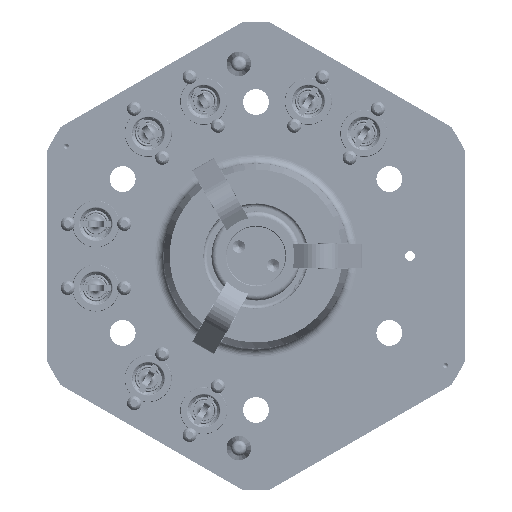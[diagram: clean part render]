
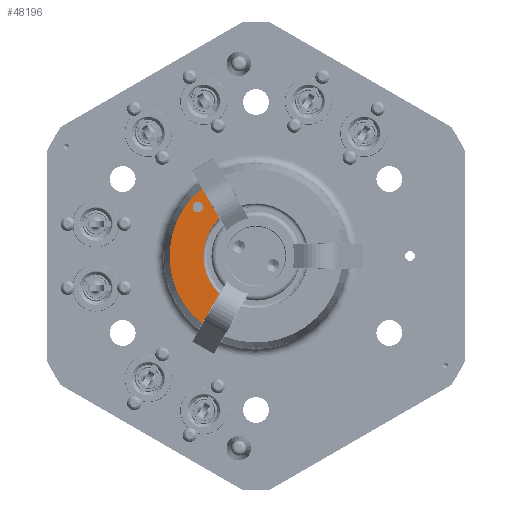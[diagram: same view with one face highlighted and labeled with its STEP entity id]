
A CAD part, front view. The second image highlights one B-rep face of the part: STEP entity #48196.
In plain terms, the highlighted planar face has unit normal (0, -1, 0).
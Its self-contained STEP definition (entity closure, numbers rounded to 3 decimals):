
#2394 = AXIS2_PLACEMENT_3D ( 'NONE', #59022, #14648, #31518 ) ;
#2528 = EDGE_CURVE ( 'NONE', #4203, #50151, #19830, .T. ) ;
#3864 = CARTESIAN_POINT ( 'NONE',  ( -23.624, -44.5, 19.918 ) ) ;
#4203 = VERTEX_POINT ( 'NONE', #71542 ) ;
#5171 = CARTESIAN_POINT ( 'NONE',  ( 0., -44.5, 0. ) ) ;
#5877 = ORIENTED_EDGE ( 'NONE', *, *, #54965, .F. ) ;
#7744 = VECTOR ( 'NONE', #53474, 1000. ) ;
#8090 = EDGE_CURVE ( 'NONE', #55739, #21923, #60337, .T. ) ;
#8790 = EDGE_LOOP ( 'NONE', ( #65013, #16547 ) ) ;
#9604 = VERTEX_POINT ( 'NONE', #58245 ) ;
#11756 = ORIENTED_EDGE ( 'NONE', *, *, #2528, .F. ) ;
#13949 = AXIS2_PLACEMENT_3D ( 'NONE', #32656, #55379, #26434 ) ;
#14144 = CIRCLE ( 'NONE', #55131, 21.365 ) ;
#14648 = DIRECTION ( 'NONE',  ( 0., -1., 0. ) ) ;
#16547 = ORIENTED_EDGE ( 'NONE', *, *, #8090, .F. ) ;
#19482 = CARTESIAN_POINT ( 'NONE',  ( -23.624, -44.5, 22.018 ) ) ;
#19830 = LINE ( 'NONE', #34273, #67929 ) ;
#20968 = VERTEX_POINT ( 'NONE', #49570 ) ;
#21056 = DIRECTION ( 'NONE',  ( 0., 0., -1. ) ) ;
#21269 = DIRECTION ( 'NONE',  ( 0., -1., 0. ) ) ;
#21923 = VERTEX_POINT ( 'NONE', #61609 ) ;
#22127 = EDGE_LOOP ( 'NONE', ( #69585, #31348, #11756, #5877 ) ) ;
#24616 = CIRCLE ( 'NONE', #2394, 2.1 ) ;
#25228 = CARTESIAN_POINT ( 'NONE',  ( -14.902, -44.5, 15.31 ) ) ;
#26434 = DIRECTION ( 'NONE',  ( 0., 0., -1. ) ) ;
#26650 = EDGE_CURVE ( 'NONE', #9604, #20968, #38055, .T. ) ;
#27115 = DIRECTION ( 'NONE',  ( 0., 0., -1. ) ) ;
#31348 = ORIENTED_EDGE ( 'NONE', *, *, #52868, .T. ) ;
#31372 = DIRECTION ( 'NONE',  ( 0., -1., 0. ) ) ;
#31518 = DIRECTION ( 'NONE',  ( 0., 0., -1. ) ) ;
#32656 = CARTESIAN_POINT ( 'NONE',  ( 0., -44.5, 0. ) ) ;
#33902 = DIRECTION ( 'NONE',  ( 0., 0., -1. ) ) ;
#34273 = CARTESIAN_POINT ( 'NONE',  ( -14.902, -44.5, -15.31 ) ) ;
#38055 = LINE ( 'NONE', #25228, #7744 ) ;
#38325 = CARTESIAN_POINT ( 'NONE',  ( 0., -44.5, 0. ) ) ;
#39776 = DIRECTION ( 'NONE',  ( 0., -1., 0. ) ) ;
#40466 = AXIS2_PLACEMENT_3D ( 'NONE', #3864, #31372, #21056 ) ;
#41981 = AXIS2_PLACEMENT_3D ( 'NONE', #5171, #21269, #27115 ) ;
#45570 = CIRCLE ( 'NONE', #13949, 35.104 ) ;
#47342 = DIRECTION ( 'NONE',  ( -0.5, 0., -0.866 ) ) ;
#48196 = ADVANCED_FACE ( 'NONE', ( #55361, #64951 ), #65674, .T. ) ;
#49570 = CARTESIAN_POINT ( 'NONE',  ( -14.902, -44.5, 15.31 ) ) ;
#50151 = VERTEX_POINT ( 'NONE', #52395 ) ;
#52395 = CARTESIAN_POINT ( 'NONE',  ( -21.901, -44.5, -27.434 ) ) ;
#52868 = EDGE_CURVE ( 'NONE', #9604, #50151, #45570, .T. ) ;
#53474 = DIRECTION ( 'NONE',  ( 0.5, 0., -0.866 ) ) ;
#54008 = EDGE_CURVE ( 'NONE', #21923, #55739, #24616, .T. ) ;
#54965 = EDGE_CURVE ( 'NONE', #20968, #4203, #14144, .T. ) ;
#55131 = AXIS2_PLACEMENT_3D ( 'NONE', #38325, #39776, #33902 ) ;
#55361 = FACE_BOUND ( 'NONE', #8790, .T. ) ;
#55379 = DIRECTION ( 'NONE',  ( 0., -1., 0. ) ) ;
#55739 = VERTEX_POINT ( 'NONE', #19482 ) ;
#58245 = CARTESIAN_POINT ( 'NONE',  ( -21.901, -44.5, 27.434 ) ) ;
#59022 = CARTESIAN_POINT ( 'NONE',  ( -23.624, -44.5, 19.918 ) ) ;
#60337 = CIRCLE ( 'NONE', #40466, 2.1 ) ;
#61609 = CARTESIAN_POINT ( 'NONE',  ( -23.624, -44.5, 17.818 ) ) ;
#64951 = FACE_OUTER_BOUND ( 'NONE', #22127, .T. ) ;
#65013 = ORIENTED_EDGE ( 'NONE', *, *, #54008, .F. ) ;
#65674 = PLANE ( 'NONE',  #41981 ) ;
#67929 = VECTOR ( 'NONE', #47342, 1000. ) ;
#69585 = ORIENTED_EDGE ( 'NONE', *, *, #26650, .F. ) ;
#71542 = CARTESIAN_POINT ( 'NONE',  ( -14.902, -44.5, -15.31 ) ) ;
